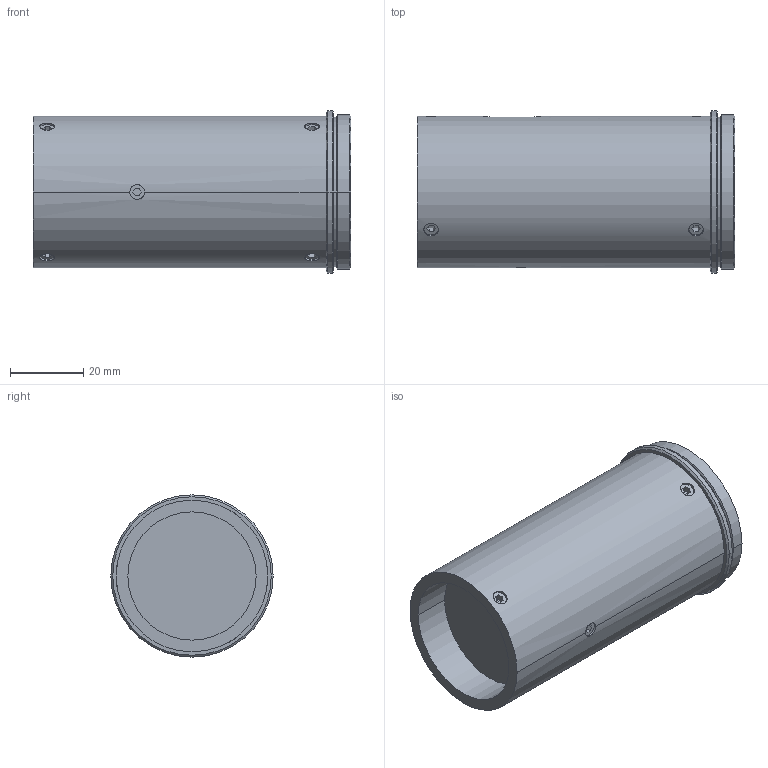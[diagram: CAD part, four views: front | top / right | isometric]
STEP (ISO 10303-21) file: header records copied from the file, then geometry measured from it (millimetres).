
FILE_DESCRIPTION (( 'STEP AP214' ), '1' );
FILE_NAME ('35-08-13-000 OUTLINE.STEP', '2013-12-09T15:16:16', ( '' ), ( '' ), 'SwSTEP 2.0', 'SolidWorks 2013', '' );
FILE_SCHEMA (( 'AUTOMOTIVE_DESIGN' ));
Length unit declared in the file: millimetre
Products named in the file (1): 35-08-13-000 OUTLINE
Bounding box: 86.51 x 44.2 x 44.2 mm (x, y, z)
Volume: 101989.8 mm3; surface area: 16290 mm2
Topology: 1 solids, 1 shells, 114 faces, 274 edges, 180 vertices
Faces by surface type: plane 74, cylinder 30, cone 8, sphere 2
Entity records: 4841 total; most frequent: CARTESIAN_POINT 1021, ORIENTED_EDGE 548, DIRECTION 538, EDGE_CURVE 274, LINE 192, VECTOR 192, VERTEX_POINT 180, AXIS2_PLACEMENT_3D 173
